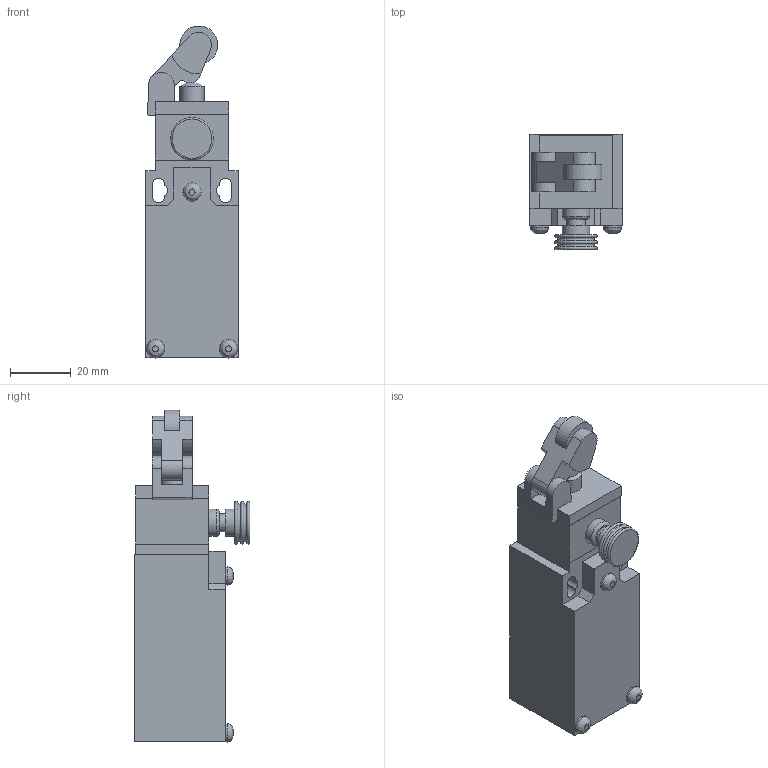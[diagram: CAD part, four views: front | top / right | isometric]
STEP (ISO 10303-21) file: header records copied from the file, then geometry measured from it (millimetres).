
FILE_DESCRIPTION((''),'2;1');
FILE_NAME('C:\Workarea\Disegni\Comepi\Catalogo\Stp\Finecorsa\AM1-R31.stp','2011-08-29T10:19:48',('Paolo'),(''),'Autodesk Inventor 2012','Autodesk Inventor 2012','');
FILE_SCHEMA(('AUTOMOTIVE_DESIGN { 1 0 10303 214 1 1 1 1 }'));
Length unit declared in the file: millimetre
Products named in the file (7): AM1-R31; AM1; R31; T31_1; T31_2; T31_3; R
Assembly tree (6 placements, depth 3):
  AM1-R31
    AM1
    R31
      T31_1
      T31_2
      T31_3
      R
Bounding box: 30.3 x 37.95 x 109 mm (x, y, z)
Volume: 66288.3 mm3; surface area: 18345.3 mm2
Topology: 5 solids, 5 shells, 105 faces, 251 edges, 162 vertices
Faces by surface type: plane 69, cylinder 26, torus 6, bspline 3, sphere 1
Full cylindrical faces by diameter (mm): 6 x4, 8 x2, 9 x2, 20.4 x1
Entity records: 3299 total; most frequent: CARTESIAN_POINT 641, DIRECTION 523, ORIENTED_EDGE 462, EDGE_CURVE 231, AXIS2_PLACEMENT_3D 177, VECTOR 169, LINE 169, VERTEX_POINT 160
